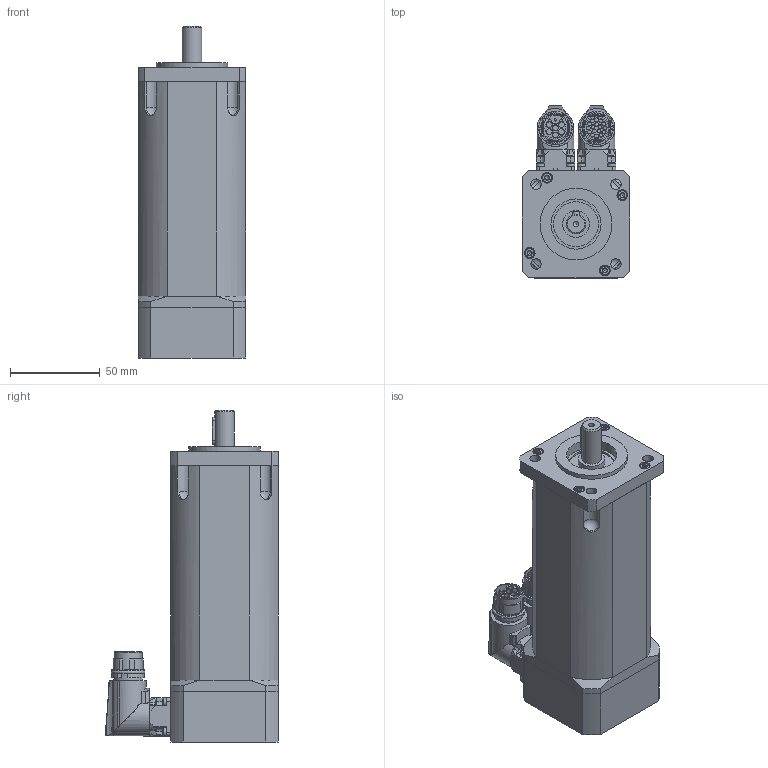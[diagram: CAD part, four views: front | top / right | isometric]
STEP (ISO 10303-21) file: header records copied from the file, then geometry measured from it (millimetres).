
FILE_DESCRIPTION(/* description */ (''),/* implementation_level */ '2;1');
FILE_NAME(/* name */ 'C:\Users\Public\Documents\Autodesk\Inventor LT 2014\Workspace\Motori Sito WEB\TG_2\STEP DSM5_2x\DSM5_22_x198.stp',/* time_stamp */ '2021-03-31T14:09:36+02:00',/* author */ ('marcor'),/* organization */ (''),/* preprocessor_version */ 'ST-DEVELOPER v15.2',/* originating_system */ 'Autodesk Inventor LT ',/* authorisation */ '');
FILE_SCHEMA (('AUTOMOTIVE_DESIGN { 1 0 10303 214 3 1 1 }'));
Length unit declared in the file: millimetre
Products named in the file (1): DSM5_22_x198
Bounding box: 60 x 96.35 x 185.35 mm (x, y, z)
Volume: 568039.6 mm3; surface area: 83316.1 mm2
Topology: 16 solids, 28 shells, 1477 faces, 3849 edges, 2515 vertices
Faces by surface type: plane 636, cylinder 509, cone 164, torus 96, bspline 52, sphere 20
Full cylindrical faces by diameter (mm): 1.3 x1, 2.1 x15, 2.224 x8, 2.459 x12, 2.5 x8, 2.7 x8, 2.88 x8, 3 x12, 3.2 x18, 3.242 x1, 4.8 x2, 5 x2, 5.5 x12, 5.8 x4, 6 x12, 11 x1, 11.7 x1, 13.4 x1, 13.8 x1, 14.2 x2, 14.95 x1, 15.54 x2, 16 x2, 16.8 x2, 19.7 x2, 25 x1, 28 x1, 32 x2, 40 x1
Entity records: 48673 total; most frequent: CARTESIAN_POINT 13508, ORIENTED_EDGE 6930, DIRECTION 6776, EDGE_CURVE 3465, AXIS2_PLACEMENT_3D 2661, VERTEX_POINT 2411, EDGE_LOOP 1910, ADVANCED_FACE 1471
